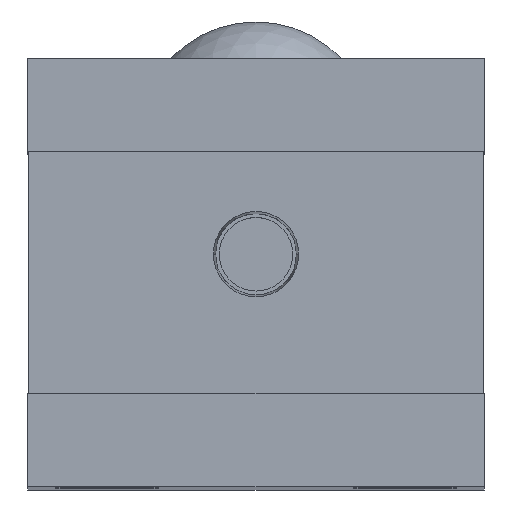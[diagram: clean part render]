
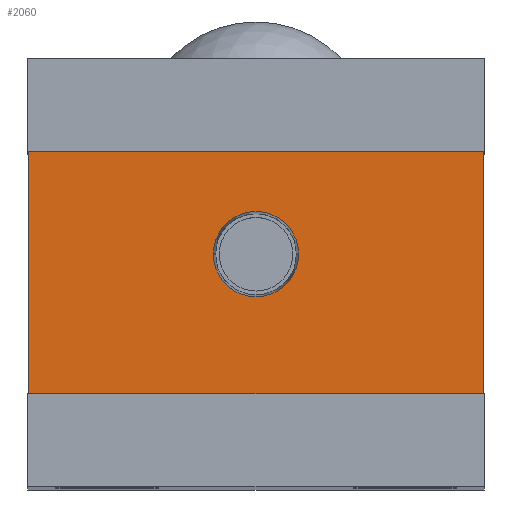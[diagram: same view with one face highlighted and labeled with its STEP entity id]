
A CAD part, top view. The second image highlights one B-rep face of the part: STEP entity #2060.
In plain terms, the highlighted planar face has unit normal (0, 0, 1).
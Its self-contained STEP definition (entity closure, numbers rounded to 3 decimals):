
#67 = ORIENTED_EDGE ( 'NONE', *, *, #1869, .T. ) ;
#315 = DIRECTION ( 'NONE',  ( 0., 1., 0. ) ) ;
#357 = LINE ( 'NONE', #3196, #1526 ) ;
#493 = EDGE_CURVE ( 'NONE', #1638, #4336, #792, .T. ) ;
#559 = LINE ( 'NONE', #2596, #4880 ) ;
#568 = ORIENTED_EDGE ( 'NONE', *, *, #3692, .T. ) ;
#622 = CARTESIAN_POINT ( 'NONE',  ( 4.574, 25., -0.2 ) ) ;
#747 = CARTESIAN_POINT ( 'NONE',  ( 24.4, 36., -0.2 ) ) ;
#792 = CIRCLE ( 'NONE', #4661, 4.574 ) ;
#852 = LINE ( 'NONE', #1206, #3043 ) ;
#917 = FACE_OUTER_BOUND ( 'NONE', #3271, .T. ) ;
#1023 = VERTEX_POINT ( 'NONE', #747 ) ;
#1206 = CARTESIAN_POINT ( 'NONE',  ( -24.4, 10., -0.2 ) ) ;
#1250 = VECTOR ( 'NONE', #315, 1000. ) ;
#1526 = VECTOR ( 'NONE', #5291, 1000. ) ;
#1638 = VERTEX_POINT ( 'NONE', #622 ) ;
#1667 = ORIENTED_EDGE ( 'NONE', *, *, #4727, .T. ) ;
#1716 = VERTEX_POINT ( 'NONE', #2010 ) ;
#1814 = CARTESIAN_POINT ( 'NONE',  ( 0., 25., -0.2 ) ) ;
#1869 = EDGE_CURVE ( 'NONE', #1716, #4585, #852, .T. ) ;
#1888 = PLANE ( 'NONE',  #2312 ) ;
#2010 = CARTESIAN_POINT ( 'NONE',  ( -24.4, 36., -0.2 ) ) ;
#2050 = CARTESIAN_POINT ( 'NONE',  ( 0., 25., -0.2 ) ) ;
#2060 = ADVANCED_FACE ( 'NONE', ( #2227, #917 ), #1888, .F. ) ;
#2227 = FACE_BOUND ( 'NONE', #5093, .T. ) ;
#2233 = ORIENTED_EDGE ( 'NONE', *, *, #3885, .F. ) ;
#2312 = AXIS2_PLACEMENT_3D ( 'NONE', #3604, #2326, #5303 ) ;
#2326 = DIRECTION ( 'NONE',  ( 0., 0., -1. ) ) ;
#2401 = AXIS2_PLACEMENT_3D ( 'NONE', #2050, #5038, #2485 ) ;
#2419 = LINE ( 'NONE', #2919, #1250 ) ;
#2485 = DIRECTION ( 'NONE',  ( 1., 0., 0. ) ) ;
#2596 = CARTESIAN_POINT ( 'NONE',  ( -24.4, 36., -0.2 ) ) ;
#2919 = CARTESIAN_POINT ( 'NONE',  ( 24.4, 36., -0.2 ) ) ;
#3039 = DIRECTION ( 'NONE',  ( -1., 0., 0. ) ) ;
#3043 = VECTOR ( 'NONE', #4231, 1000. ) ;
#3164 = CIRCLE ( 'NONE', #2401, 4.574 ) ;
#3196 = CARTESIAN_POINT ( 'NONE',  ( 24.4, 10., -0.2 ) ) ;
#3271 = EDGE_LOOP ( 'NONE', ( #1667, #67, #568, #3510 ) ) ;
#3280 = CARTESIAN_POINT ( 'NONE',  ( 24.4, 10., -0.2 ) ) ;
#3510 = ORIENTED_EDGE ( 'NONE', *, *, #4120, .T. ) ;
#3516 = DIRECTION ( 'NONE',  ( 1., 0., 0. ) ) ;
#3604 = CARTESIAN_POINT ( 'NONE',  ( 0., 0., -0.2 ) ) ;
#3692 = EDGE_CURVE ( 'NONE', #4585, #5055, #357, .T. ) ;
#3866 = DIRECTION ( 'NONE',  ( 0., 0., 1. ) ) ;
#3885 = EDGE_CURVE ( 'NONE', #4336, #1638, #3164, .T. ) ;
#4007 = ORIENTED_EDGE ( 'NONE', *, *, #493, .F. ) ;
#4120 = EDGE_CURVE ( 'NONE', #5055, #1023, #2419, .T. ) ;
#4231 = DIRECTION ( 'NONE',  ( 0., -1., 0. ) ) ;
#4336 = VERTEX_POINT ( 'NONE', #5274 ) ;
#4585 = VERTEX_POINT ( 'NONE', #5040 ) ;
#4661 = AXIS2_PLACEMENT_3D ( 'NONE', #1814, #3866, #3516 ) ;
#4727 = EDGE_CURVE ( 'NONE', #1023, #1716, #559, .T. ) ;
#4880 = VECTOR ( 'NONE', #3039, 1000. ) ;
#5038 = DIRECTION ( 'NONE',  ( 0., 0., 1. ) ) ;
#5040 = CARTESIAN_POINT ( 'NONE',  ( -24.4, 10., -0.2 ) ) ;
#5055 = VERTEX_POINT ( 'NONE', #3280 ) ;
#5093 = EDGE_LOOP ( 'NONE', ( #4007, #2233 ) ) ;
#5274 = CARTESIAN_POINT ( 'NONE',  ( -4.574, 25., -0.2 ) ) ;
#5291 = DIRECTION ( 'NONE',  ( 1., 0., 0. ) ) ;
#5303 = DIRECTION ( 'NONE',  ( -1., 0., 0. ) ) ;
